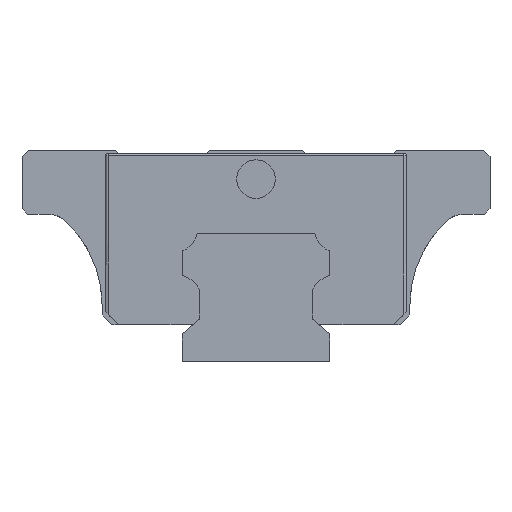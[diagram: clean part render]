
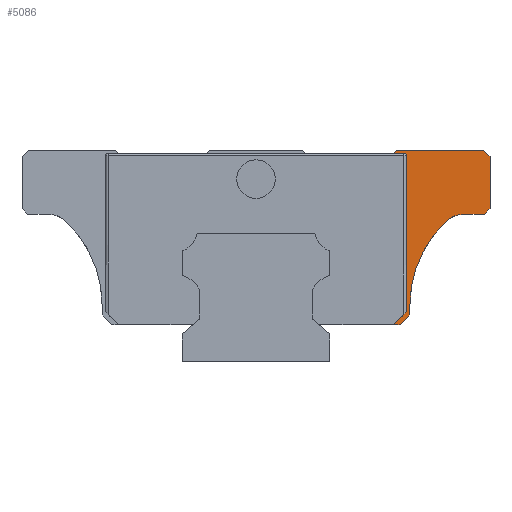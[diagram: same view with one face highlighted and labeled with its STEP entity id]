
A CAD part, left-side view. The second image highlights one B-rep face of the part: STEP entity #5086.
In plain terms, the highlighted planar face has unit normal (-1, 0, 0).
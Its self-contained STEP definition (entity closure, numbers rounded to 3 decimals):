
#48 = VERTEX_POINT ( 'NONE', #6343 ) ;
#312 = VERTEX_POINT ( 'NONE', #1058 ) ;
#476 = CARTESIAN_POINT ( 'NONE',  ( -29.5, -36.5, 33. ) ) ;
#484 = CARTESIAN_POINT ( 'NONE',  ( -29.5, -36.5, 32.05 ) ) ;
#505 = VECTOR ( 'NONE', #7234, 1000. ) ;
#525 = VERTEX_POINT ( 'NONE', #2518 ) ;
#528 = LINE ( 'NONE', #1318, #5107 ) ;
#553 = DIRECTION ( 'NONE',  ( 0., 0.707, 0.707 ) ) ;
#602 = LINE ( 'NONE', #4322, #505 ) ;
#614 = ORIENTED_EDGE ( 'NONE', *, *, #903, .T. ) ;
#625 = ORIENTED_EDGE ( 'NONE', *, *, #4870, .T. ) ;
#706 = VECTOR ( 'NONE', #2502, 1000. ) ;
#735 = AXIS2_PLACEMENT_3D ( 'NONE', #5370, #6594, #1164 ) ;
#903 = EDGE_CURVE ( 'NONE', #1022, #4295, #528, .T. ) ;
#916 = VERTEX_POINT ( 'NONE', #3751 ) ;
#981 = EDGE_CURVE ( 'NONE', #4251, #2848, #5604, .T. ) ;
#1015 = ORIENTED_EDGE ( 'NONE', *, *, #3601, .F. ) ;
#1022 = VERTEX_POINT ( 'NONE', #3226 ) ;
#1058 = CARTESIAN_POINT ( 'NONE',  ( -29.5, -23.449, 32.135 ) ) ;
#1164 = DIRECTION ( 'NONE',  ( 0., 0., 1. ) ) ;
#1194 = DIRECTION ( 'NONE',  ( 0., 0., 1. ) ) ;
#1196 = CARTESIAN_POINT ( 'NONE',  ( -29.5, -35.55, 33. ) ) ;
#1264 = LINE ( 'NONE', #6219, #6896 ) ;
#1312 = PLANE ( 'NONE',  #3814 ) ;
#1318 = CARTESIAN_POINT ( 'NONE',  ( -29.5, -11.736, 5.8 ) ) ;
#1327 = ORIENTED_EDGE ( 'NONE', *, *, #4745, .T. ) ;
#1349 = CARTESIAN_POINT ( 'NONE',  ( -29.5, -32.41, 19. ) ) ;
#1507 = VECTOR ( 'NONE', #4440, 1000. ) ;
#1598 = LINE ( 'NONE', #4718, #3458 ) ;
#1676 = ORIENTED_EDGE ( 'NONE', *, *, #6838, .T. ) ;
#1781 = CIRCLE ( 'NONE', #5882, 0.365 ) ;
#1856 = VERTEX_POINT ( 'NONE', #484 ) ;
#1895 = VERTEX_POINT ( 'NONE', #3082 ) ;
#1907 = CIRCLE ( 'NONE', #735, 18. ) ;
#1997 = CARTESIAN_POINT ( 'NONE',  ( -29.5, -23.084, 32.135 ) ) ;
#2005 = DIRECTION ( 'NONE',  ( 1., 0., 0. ) ) ;
#2133 = ORIENTED_EDGE ( 'NONE', *, *, #5414, .F. ) ;
#2178 = VECTOR ( 'NONE', #1194, 1000. ) ;
#2218 = ORIENTED_EDGE ( 'NONE', *, *, #3782, .T. ) ;
#2234 = VECTOR ( 'NONE', #2512, 1000. ) ;
#2250 = CARTESIAN_POINT ( 'NONE',  ( -29.5, -24., 7.3 ) ) ;
#2261 = CARTESIAN_POINT ( 'NONE',  ( -29.5, -22.5, 5.8 ) ) ;
#2369 = ORIENTED_EDGE ( 'NONE', *, *, #4498, .T. ) ;
#2502 = DIRECTION ( 'NONE',  ( 0., -1., 0. ) ) ;
#2512 = DIRECTION ( 'NONE',  ( 0., 0., 1. ) ) ;
#2518 = CARTESIAN_POINT ( 'NONE',  ( -29.5, -29.671, 21.914 ) ) ;
#2695 = EDGE_CURVE ( 'NONE', #3175, #4814, #2719, .T. ) ;
#2719 = LINE ( 'NONE', #4458, #5957 ) ;
#2848 = VERTEX_POINT ( 'NONE', #4738 ) ;
#2941 = ORIENTED_EDGE ( 'NONE', *, *, #981, .T. ) ;
#2950 = DIRECTION ( 'NONE',  ( 0., 1., 0. ) ) ;
#3000 = CARTESIAN_POINT ( 'NONE',  ( -29.5, -35.6, 23. ) ) ;
#3040 = EDGE_CURVE ( 'NONE', #48, #312, #5545, .T. ) ;
#3082 = CARTESIAN_POINT ( 'NONE',  ( -29.5, -24., 7.3 ) ) ;
#3130 = ORIENTED_EDGE ( 'NONE', *, *, #6365, .T. ) ;
#3153 = LINE ( 'NONE', #6164, #1507 ) ;
#3175 = VERTEX_POINT ( 'NONE', #6317 ) ;
#3208 = DIRECTION ( 'NONE',  ( 0., 0.643, -0.766 ) ) ;
#3226 = CARTESIAN_POINT ( 'NONE',  ( -29.5, -21.443, 5.8 ) ) ;
#3447 = EDGE_CURVE ( 'NONE', #4773, #525, #1907, .T. ) ;
#3458 = VECTOR ( 'NONE', #6426, 1000. ) ;
#3601 = EDGE_CURVE ( 'NONE', #4691, #4814, #3153, .T. ) ;
#3622 = LINE ( 'NONE', #6586, #2178 ) ;
#3643 = CARTESIAN_POINT ( 'NONE',  ( -29.5, -23.449, 7.8 ) ) ;
#3751 = CARTESIAN_POINT ( 'NONE',  ( -29.5, -36.5, 23.9 ) ) ;
#3782 = EDGE_CURVE ( 'NONE', #4295, #1895, #5793, .T. ) ;
#3814 = AXIS2_PLACEMENT_3D ( 'NONE', #6225, #7698, #5311 ) ;
#3888 = ORIENTED_EDGE ( 'NONE', *, *, #5035, .T. ) ;
#4251 = VERTEX_POINT ( 'NONE', #5090 ) ;
#4295 = VERTEX_POINT ( 'NONE', #2261 ) ;
#4306 = DIRECTION ( 'NONE',  ( 1., 0., 0. ) ) ;
#4322 = CARTESIAN_POINT ( 'NONE',  ( -29.5, -36.5, 23. ) ) ;
#4440 = DIRECTION ( 'NONE',  ( 0., 1., 0. ) ) ;
#4458 = CARTESIAN_POINT ( 'NONE',  ( -29.5, -21.9, 33. ) ) ;
#4498 = EDGE_CURVE ( 'NONE', #5057, #3175, #6002, .T. ) ;
#4691 = VERTEX_POINT ( 'NONE', #7143 ) ;
#4717 = DIRECTION ( 'NONE',  ( 0., -0.707, 0.707 ) ) ;
#4718 = CARTESIAN_POINT ( 'NONE',  ( -29.5, -36.5, 23.9 ) ) ;
#4738 = CARTESIAN_POINT ( 'NONE',  ( -29.5, -35.6, 23. ) ) ;
#4745 = EDGE_CURVE ( 'NONE', #2848, #916, #1598, .T. ) ;
#4773 = VERTEX_POINT ( 'NONE', #5794 ) ;
#4814 = VERTEX_POINT ( 'NONE', #7061 ) ;
#4870 = EDGE_CURVE ( 'NONE', #1895, #4773, #3622, .T. ) ;
#5013 = VECTOR ( 'NONE', #2950, 1000. ) ;
#5035 = EDGE_CURVE ( 'NONE', #525, #4251, #6878, .T. ) ;
#5057 = VERTEX_POINT ( 'NONE', #6936 ) ;
#5086 = ADVANCED_FACE ( 'NONE', ( #6825 ), #1312, .T. ) ;
#5090 = CARTESIAN_POINT ( 'NONE',  ( -29.5, -32.41, 23. ) ) ;
#5103 = DIRECTION ( 'NONE',  ( 0., -0.707, 0.707 ) ) ;
#5107 = VECTOR ( 'NONE', #6902, 1000. ) ;
#5209 = EDGE_LOOP ( 'NONE', ( #1676, #2369, #5285, #1015, #7770, #7235, #2133, #614, #2218, #625, #6100, #3888, #2941, #1327, #3130 ) ) ;
#5285 = ORIENTED_EDGE ( 'NONE', *, *, #2695, .T. ) ;
#5311 = DIRECTION ( 'NONE',  ( 0., 0., 1. ) ) ;
#5370 = CARTESIAN_POINT ( 'NONE',  ( -29.5, -42., 8.8 ) ) ;
#5414 = EDGE_CURVE ( 'NONE', #1022, #48, #1264, .T. ) ;
#5423 = EDGE_CURVE ( 'NONE', #4691, #312, #1781, .T. ) ;
#5545 = LINE ( 'NONE', #3643, #2234 ) ;
#5604 = LINE ( 'NONE', #3000, #706 ) ;
#5793 = LINE ( 'NONE', #2250, #6152 ) ;
#5794 = CARTESIAN_POINT ( 'NONE',  ( -29.5, -24., 8.8 ) ) ;
#5882 = AXIS2_PLACEMENT_3D ( 'NONE', #1997, #4306, #6147 ) ;
#5957 = VECTOR ( 'NONE', #3208, 1000. ) ;
#6002 = LINE ( 'NONE', #476, #5013 ) ;
#6100 = ORIENTED_EDGE ( 'NONE', *, *, #3447, .T. ) ;
#6147 = DIRECTION ( 'NONE',  ( 0., 0., 1. ) ) ;
#6152 = VECTOR ( 'NONE', #4717, 1000. ) ;
#6164 = CARTESIAN_POINT ( 'NONE',  ( -29.5, -24.589, 32.5 ) ) ;
#6219 = CARTESIAN_POINT ( 'NONE',  ( -29.5, -21.443, 5.8 ) ) ;
#6225 = CARTESIAN_POINT ( 'NONE',  ( -29.5, -10.009, 5.8 ) ) ;
#6317 = CARTESIAN_POINT ( 'NONE',  ( -29.5, -21.9, 33. ) ) ;
#6343 = CARTESIAN_POINT ( 'NONE',  ( -29.5, -23.449, 7.806 ) ) ;
#6365 = EDGE_CURVE ( 'NONE', #916, #1856, #602, .T. ) ;
#6426 = DIRECTION ( 'NONE',  ( 0., -0.707, 0.707 ) ) ;
#6493 = AXIS2_PLACEMENT_3D ( 'NONE', #1349, #2005, #7468 ) ;
#6586 = CARTESIAN_POINT ( 'NONE',  ( -29.5, -24., 8.8 ) ) ;
#6594 = DIRECTION ( 'NONE',  ( 1., 0., 0. ) ) ;
#6711 = LINE ( 'NONE', #1196, #6926 ) ;
#6825 = FACE_OUTER_BOUND ( 'NONE', #5209, .T. ) ;
#6838 = EDGE_CURVE ( 'NONE', #1856, #5057, #6711, .T. ) ;
#6878 = CIRCLE ( 'NONE', #6493, 4. ) ;
#6896 = VECTOR ( 'NONE', #5103, 1000. ) ;
#6902 = DIRECTION ( 'NONE',  ( 0., -1., 0. ) ) ;
#6926 = VECTOR ( 'NONE', #553, 1000. ) ;
#6936 = CARTESIAN_POINT ( 'NONE',  ( -29.5, -35.55, 33. ) ) ;
#7061 = CARTESIAN_POINT ( 'NONE',  ( -29.5, -21.48, 32.5 ) ) ;
#7143 = CARTESIAN_POINT ( 'NONE',  ( -29.5, -23.084, 32.5 ) ) ;
#7234 = DIRECTION ( 'NONE',  ( 0., 0., 1. ) ) ;
#7235 = ORIENTED_EDGE ( 'NONE', *, *, #3040, .F. ) ;
#7468 = DIRECTION ( 'NONE',  ( 0., 0., 1. ) ) ;
#7698 = DIRECTION ( 'NONE',  ( -1., 0., 0. ) ) ;
#7770 = ORIENTED_EDGE ( 'NONE', *, *, #5423, .T. ) ;
